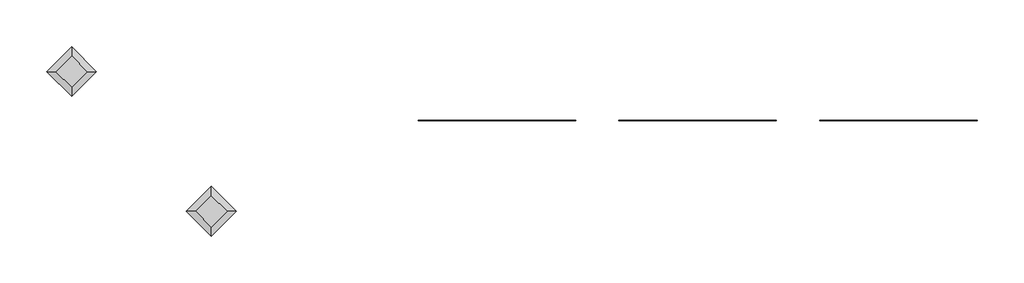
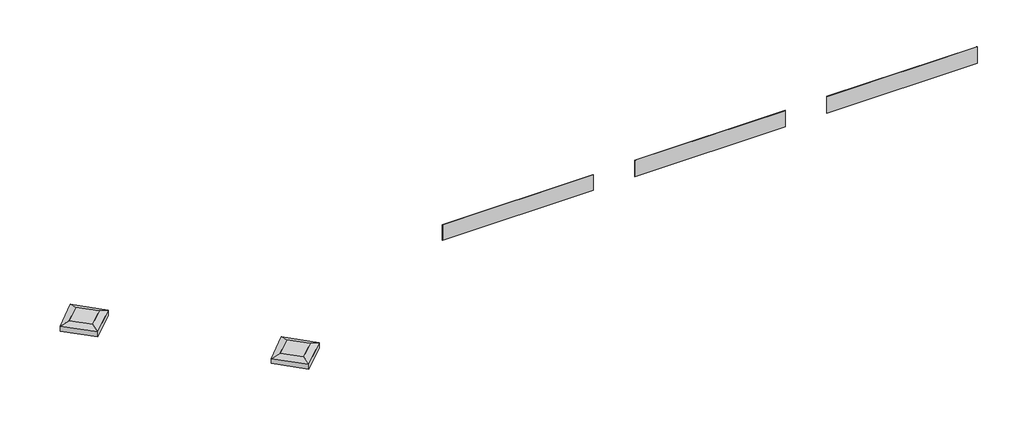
# One storey: 5 proxies.
"""IFC4 building model written with IfcOpenShell, lengths in millimetres."""

from ifc_helpers import new_model, si_unit, origin, place, context, project, spatial, transform, mapped, element, save
from components import generic_models_1_generic_models_1_b1e18ffd, generic_models_3_generic_models_1_04b73181, generic_models_4_generic_models_1_3a44d989, precast_column_cap_1_precast_column_cap_2_879402a2, precast_column_cap_2_precast_column_cap_2_c5dd9a02

model = new_model("IFC4")

# Units and contexts
model_context = context("Model", 3, world=origin())
ifc_project = project(units=[si_unit("LENGTHUNIT", "METRE", prefix="MILLI")], contexts=[model_context])

# Site, building, storey
site = spatial("IfcSite", under=ifc_project)
building = spatial("IfcBuilding", under=site)
storey = spatial("IfcBuildingStorey", under=building, Name="T.O. STOREFRONT", Elevation=33528.0)

# Proxies
placement = place(None, origin())
generic_models_1_generic_models_1_shape = generic_models_1_generic_models_1_b1e18ffd(model_context)
element("IfcBuildingElementProxy", 1, Name="Generic Models 1 : Generic Models 1", ObjectType="Generic Models 1 : Generic Models 1", at=placement, inside=storey, context=model_context, shape_type="MappedRepresentation", body=[
    mapped(generic_models_1_generic_models_1_shape, transform((0.0, 0.0, 0.0), x_axis=(1.0, 0.0, 0.0), y_axis=(0.0, 1.0, 0.0), z_axis=(0.0, 0.0, 1.0))),
])
generic_models_3_generic_models_1_shape = generic_models_3_generic_models_1_04b73181(model_context)
element("IfcBuildingElementProxy", 2, Name="Generic Models 3 : Generic Models 1", ObjectType="Generic Models 3 : Generic Models 1", at=placement, inside=storey, context=model_context, shape_type="MappedRepresentation", body=[
    mapped(generic_models_3_generic_models_1_shape, transform((3759.18984, 0.0, 0.0), x_axis=(1.0, 0.0, 0.0), y_axis=(0.0, 1.0, 0.0), z_axis=(0.0, 0.0, 1.0))),
])
generic_models_4_generic_models_1_shape = generic_models_4_generic_models_1_3a44d989(model_context)
element("IfcBuildingElementProxy", 3, Name="Generic Models 4 : Generic Models 1", ObjectType="Generic Models 4 : Generic Models 1", at=placement, inside=storey, context=model_context, shape_type="MappedRepresentation", body=[
    mapped(generic_models_4_generic_models_1_shape, transform((7518.37968, 0.0, 0.0), x_axis=(1.0, 0.0, 0.0), y_axis=(0.0, 1.0, 0.0), z_axis=(0.0, 0.0, 1.0))),
])
precast_column_cap_1_precast_column_cap_2_shape = precast_column_cap_1_precast_column_cap_2_879402a2(model_context)
element("IfcBuildingElementProxy", 4, Name="Precast Column Cap 1 : Precast Column Cap 2", ObjectType="Precast Column Cap 1 : Precast Column Cap 2", at=placement, inside=storey, context=model_context, shape_type="MappedRepresentation", body=[
    mapped(precast_column_cap_1_precast_column_cap_2_shape, transform((0.0, 0.0, 0.0), x_axis=(1.0, 0.0, 0.0), y_axis=(0.0, 1.0, 0.0), z_axis=(0.0, 0.0, 1.0))),
])
precast_column_cap_2_precast_column_cap_2_shape = precast_column_cap_2_precast_column_cap_2_c5dd9a02(model_context)
element("IfcBuildingElementProxy", 5, Name="Precast Column Cap 2 : Precast Column Cap 2", ObjectType="Precast Column Cap 2 : Precast Column Cap 2", at=placement, inside=storey, context=model_context, shape_type="MappedRepresentation", body=[
    mapped(precast_column_cap_2_precast_column_cap_2_shape, transform((0.0, 0.0, 0.0), x_axis=(1.0, 0.0, 0.0), y_axis=(0.0, 1.0, 0.0), z_axis=(0.0, 0.0, 1.0))),
])

save(model, "model.ifc")
